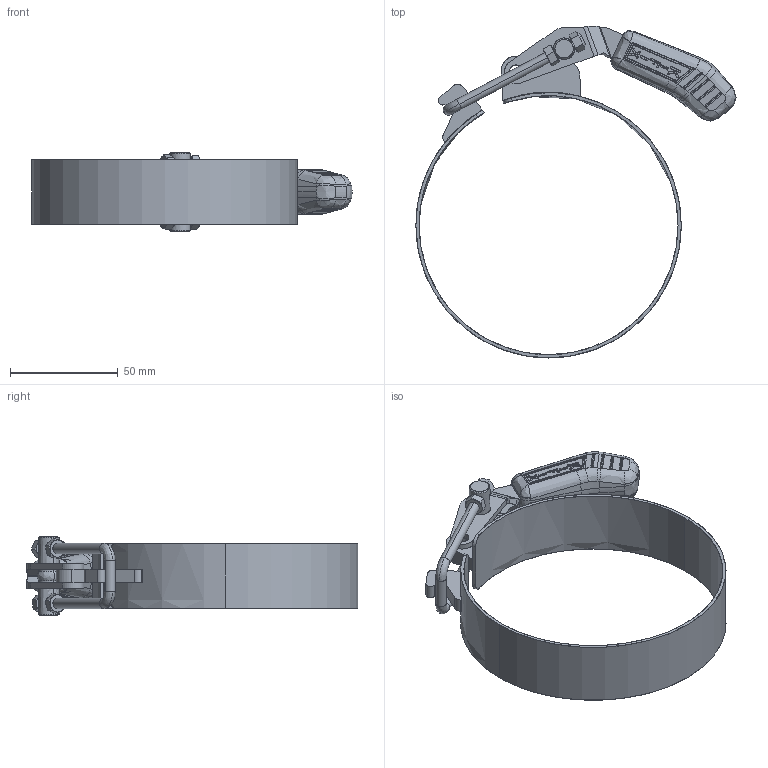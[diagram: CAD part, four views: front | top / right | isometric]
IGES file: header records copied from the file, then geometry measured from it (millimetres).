
Start section: SolidWorks IGES file using analytic representation for surfaces
Global section: file name: P:\SITE KIFIX\KF-743 CT 120\KF-743 CT120.IGS; native system: SolidWorks 2020; preprocessor: SolidWorks 2020; author: Adriano; date: 201001.095542; units: millimetre
Bounding box: 148.42 x 153.82 x 37 mm (x, y, z)
Surface area: 44153 mm2 (no closed solid volume)
Topology: 0 solids, 0 shells, 846 faces, 7559 edges, 7506 vertices
Faces by surface type: bspline 495, revolution 351
